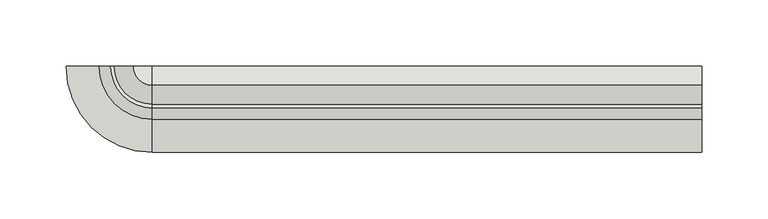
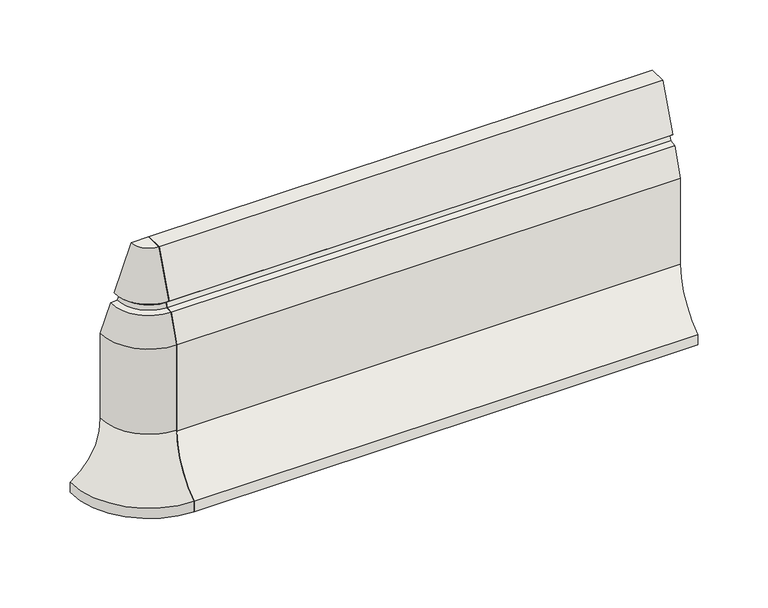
"""IFC4 building model written with IfcOpenShell, lengths in millimetres: wall geometry, GM_PC_UN_ACO kerb PB outside corner_ACO : PB H200 standard."""

import ifcopenshell
import ifcopenshell.guid

model = None  # the IFC model being written
_history = None  # IfcOwnerHistory: only IFC2X3 demands one
_inside = {}  # id of a spatial element -> (the spatial element, [elements in it])
_under = {}  # id of a project, library or spatial element -> (it, [spatial elements below it])
_declared = {}  # id of a project -> (the project, [libraries it declares])
_typed = {}  # id of a type object -> (the type object, [elements of that type])
_made_of = {}  # id of a material, layer set ... -> (it, [elements and type objects made of it])


def new_model(schema):
    """Start an empty IFC model of exactly this schema.

    Asked for "IFC4X3", IfcOpenShell would pick the latest addendum, in which some entities
    have other attributes; the version numbers below select the first issue.
    IFC2X3 requires an IfcOwnerHistory on every rooted entity: one is made here for all.
    """
    global model, _history
    if schema == "IFC4X3":
        model = ifcopenshell.file(schema_version=(4, 3, 0, 0))
    else:
        model = ifcopenshell.file(schema=schema)
    _inside.clear()
    _under.clear()
    _declared.clear()
    _typed.clear()
    _made_of.clear()
    _history = None
    if model.schema == "IFC2X3":
        org = make("IfcOrganization", Name="unknown")
        user = make(
            "IfcPersonAndOrganization",
            ThePerson=make("IfcPerson", FamilyName="unknown"),
            TheOrganization=org,
        )
        app = make(
            "IfcApplication",
            ApplicationDeveloper=org,
            Version="unknown",
            ApplicationFullName="unknown",
            ApplicationIdentifier="unknown",
        )
        _history = make(
            "IfcOwnerHistory",
            OwningUser=user,
            OwningApplication=app,
            ChangeAction="ADDED",
            CreationDate=0,
        )
    return model


def make(cls, **values):
    """One entity of the class cls with the attributes given. An attribute that is None is left unset."""
    return model.create_entity(
        cls, **{name: value for name, value in values.items() if value is not None}
    )


def rooted(cls, **values):
    """An entity with a GlobalId (a new one), such as an element, a storey or a relation."""
    return make(cls, GlobalId=ifcopenshell.guid.new(), OwnerHistory=_history, **values)


def si_unit(unit_type, name, prefix=None):
    """IfcSIUnit, for example si_unit("LENGTHUNIT", "METRE", prefix="MILLI")."""
    return make("IfcSIUnit", UnitType=unit_type, Prefix=prefix, Name=name)


def assignment(units):
    """IfcUnitAssignment: the units of a project."""
    return None if units is None else make("IfcUnitAssignment", Units=units)


def point(xyz):
    """IfcCartesianPoint."""
    return None if xyz is None else make("IfcCartesianPoint", Coordinates=xyz)


def direction(xyz):
    """IfcDirection."""
    return None if xyz is None else make("IfcDirection", DirectionRatios=xyz)


def frame(location, z_axis=None, x_axis=None):
    """IfcAxis2Placement3D, a coordinate frame: its origin and axes. An axis left out is left unset."""
    return make(
        "IfcAxis2Placement3D",
        Location=point(location),
        Axis=direction(z_axis),
        RefDirection=direction(x_axis),
    )


def frame_2d(location, x_axis=None):
    """IfcAxis2Placement2D, a coordinate frame in the plane: its origin and x axis."""
    return make(
        "IfcAxis2Placement2D", Location=point(location), RefDirection=direction(x_axis)
    )


def origin():
    """The frame at (0, 0, 0) with its axes left unset."""
    return frame((0.0, 0.0, 0.0))


def place(relative_to, where):
    """IfcLocalPlacement: puts the frame where relative to a parent placement (None: the world)."""
    return make(
        "IfcLocalPlacement", PlacementRelTo=relative_to, RelativePlacement=where
    )


def context(
    kind, dimensions, precision=None, world=None, true_north=None, identifier=None
):
    """IfcGeometricRepresentationContext, for example the 3D "Model" context."""
    return make(
        "IfcGeometricRepresentationContext",
        ContextIdentifier=identifier,
        ContextType=kind,
        CoordinateSpaceDimension=dimensions,
        Precision=precision,
        WorldCoordinateSystem=world,
        TrueNorth=true_north,
    )


def project(units=None, contexts=None):
    """IfcProject with its units and contexts."""
    return rooted(
        "IfcProject",
        Name="project",
        RepresentationContexts=contexts,
        UnitsInContext=assignment(units),
    )


def spatial(cls, under=None, at=None, **own):
    """A site, building, storey or space (cls), placed at a placement, below another one or the project."""
    s = rooted(cls, ObjectPlacement=at, **own)
    if under is not None:
        _under.setdefault(under.id(), (under, []))[1].append(s)
    return s


def polyline(points):
    """IfcPolyline through the points."""
    return make("IfcPolyline", Points=[point(p) for p in points])


def circle_curve(where, radius):
    """IfcCircle in the frame where."""
    return make("IfcCircle", Position=where, Radius=radius)


def ellipse_curve(where, semi_axis1, semi_axis2):
    """IfcEllipse in the frame where."""
    return make(
        "IfcEllipse", Position=where, SemiAxis1=semi_axis1, SemiAxis2=semi_axis2
    )


def trimmed(basis, trim1, trim2, sense, master):
    """IfcTrimmedCurve: the piece of a basis curve between two trims."""
    return make(
        "IfcTrimmedCurve",
        BasisCurve=basis,
        Trim1=trim1,
        Trim2=trim2,
        SenseAgreement=sense,
        MasterRepresentation=master,
    )


def segment(curve, same_sense, transition):
    """IfcCompositeCurveSegment."""
    return make(
        "IfcCompositeCurveSegment",
        Transition=transition,
        SameSense=same_sense,
        ParentCurve=curve,
    )


def composite_curve(segments, self_intersect=None):
    """IfcCompositeCurve: segments joined end to end."""
    return make("IfcCompositeCurve", Segments=segments, SelfIntersect=self_intersect)


def outline(outer, holes=None, kind="AREA"):
    """IfcArbitraryClosedProfileDef: a profile drawn as a closed curve; with holes, ...WithVoids."""
    if holes is None:
        return make("IfcArbitraryClosedProfileDef", ProfileType=kind, OuterCurve=outer)
    return make(
        "IfcArbitraryProfileDefWithVoids",
        ProfileType=kind,
        OuterCurve=outer,
        InnerCurves=holes,
    )


def extrude(swept, where, along, depth):
    """IfcExtrudedAreaSolid: the profile swept, set in the frame where, extruded along a direction by depth."""
    return make(
        "IfcExtrudedAreaSolid",
        SweptArea=swept,
        Position=where,
        ExtrudedDirection=direction(along),
        Depth=depth,
    )


def shape(context_of_items, identifier, shape_type, items):
    """IfcShapeRepresentation: the items that make up one representation, for example the "Body"."""
    return make(
        "IfcShapeRepresentation",
        ContextOfItems=context_of_items,
        RepresentationIdentifier=identifier,
        RepresentationType=shape_type,
        Items=items,
    )


def source(mapping_origin, context_of_items, identifier, shape_type, items):
    """IfcRepresentationMap: a shape defined once, which mapped items show again and again."""
    return make(
        "IfcRepresentationMap",
        MappingOrigin=mapping_origin,
        MappedRepresentation=shape(context_of_items, identifier, shape_type, items),
    )


def transform(
    local_origin,
    x_axis=None,
    y_axis=None,
    z_axis=None,
    scale=None,
    scale2=None,
    scale3=None,
    uniform=True,
):
    """IfcCartesianTransformationOperator3D, or its non-uniform kind. x_axis, y_axis, z_axis: its Axis1, 2, 3."""
    if uniform:
        return make(
            "IfcCartesianTransformationOperator3D",
            Axis1=direction(x_axis),
            Axis2=direction(y_axis),
            LocalOrigin=point(local_origin),
            Scale=scale,
            Axis3=direction(z_axis),
        )
    return make(
        "IfcCartesianTransformationOperator3DnonUniform",
        Axis1=direction(x_axis),
        Axis2=direction(y_axis),
        LocalOrigin=point(local_origin),
        Scale=scale,
        Axis3=direction(z_axis),
        Scale2=scale2,
        Scale3=scale3,
    )


def mapped(mapping_source, mapping_target):
    """IfcMappedItem: shows the shape of a source again, moved by a transform."""
    return make(
        "IfcMappedItem", MappingSource=mapping_source, MappingTarget=mapping_target
    )


def made_of(thing, what):
    """Note that an element or type object is made of a material, layer set ...; save() writes the relation."""
    if what is not None:
        _made_of.setdefault(what.id(), (what, []))[1].append(thing)
    return thing


def element(
    cls,
    number,
    at=None,
    inside=None,
    cuts=None,
    type_object=None,
    material=None,
    context=None,
    identifier="Body",
    shape_type=None,
    held_by="IfcProductDefinitionShape",
    body=None,
    shapes=None,
    **own,
):
    """One element of the class cls, such as IfcWall. Its Tag is "e" and its number.

    at: its placement. inside: the storey or other place that contains it. cuts: it is an
    opening in that element (IfcRelVoidsElement). A single representation is given by context,
    identifier, shape_type and body (its items); several are given by shapes. held_by: the class
    of the entity that holds the representations. save() writes the other relations.
    """
    e = rooted(cls, Tag="e%d" % number, ObjectPlacement=at, **own)
    if body is not None:
        shapes = [shape(context, identifier, shape_type, body)]
    if shapes is not None:
        e.Representation = make(held_by, Representations=shapes)
    if inside is not None:
        _inside.setdefault(inside.id(), (inside, []))[1].append(e)
    if cuts is not None:
        rooted(
            "IfcRelVoidsElement", RelatingBuildingElement=cuts, RelatedOpeningElement=e
        )
    if type_object is not None:
        _typed.setdefault(type_object.id(), (type_object, []))[1].append(e)
    return made_of(e, material)


def aggregate(whole, parts):
    """IfcRelAggregates: a whole, such as a stair, and the parts it consists of."""
    return rooted("IfcRelAggregates", RelatingObject=whole, RelatedObjects=parts)


def save(model, path):
    """Write the relations noted so far, then the file.

    IfcRelAggregates (storeys below a building ...), IfcRelContainedInSpatialStructure (elements
    in a storey), IfcRelDefinesByType, IfcRelAssociatesMaterial and IfcRelDeclares: one each for
    every whole, place, type object, material and project.
    """
    for whole, parts in _under.values():
        aggregate(whole, parts)
    for where, things in _inside.values():
        rooted(
            "IfcRelContainedInSpatialStructure",
            RelatedElements=things,
            RelatingStructure=where,
        )
    for kind, things in _typed.values():
        rooted("IfcRelDefinesByType", RelatedObjects=things, RelatingType=kind)
    for what, things in _made_of.values():
        rooted("IfcRelAssociatesMaterial", RelatedObjects=things, RelatingMaterial=what)
    for by, libraries in _declared.values():
        rooted("IfcRelDeclares", RelatingContext=by, RelatedDefinitions=libraries)
    model.write(path)


def plane_surface(at):
    """IfcPlane: the flat surface through the origin of the frame at, square to its z axis."""
    return make("IfcPlane", Position=at)


def cylinder_surface(at, radius):
    """IfcCylindricalSurface: all points at the distance radius from the z axis of the frame at."""
    return make("IfcCylindricalSurface", Position=at, Radius=radius)


def revolved_surface(curve, axis_point, axis_direction):
    """IfcSurfaceOfRevolution: the curve turned about the line through axis_point along axis_direction."""
    return make(
        "IfcSurfaceOfRevolution",
        SweptCurve=make("IfcArbitraryOpenProfileDef", ProfileType="CURVE", Curve=curve),
        AxisPosition=make("IfcAxis1Placement", Location=point(axis_point), Axis=direction(axis_direction)),
    )


def advanced_brep(points, edges, surfaces, faces):
    """IfcAdvancedBrep: a solid bounded by faces that lie on surfaces and meet in shared edges.

    An edge is (start, end): straight between two places in points (the first is 0);
    or (start, end, curve); or (start, end, curve, False) where it runs against its curve.
    A face is (place in surfaces, loops), or (place, loops, False) where it looks against
    its surface's normal. A loop lists edges by number (the first is 1), with a minus sign
    where the edge is run from its end to its start. The first loop is the outer one.
    """
    corners = [point(p) for p in points]
    vertices = [make("IfcVertexPoint", VertexGeometry=c) for c in corners]
    made = []
    for start, end, *more in edges:
        made.append(
            make(
                "IfcEdgeCurve",
                EdgeStart=vertices[start],
                EdgeEnd=vertices[end],
                EdgeGeometry=more[0] if more else make("IfcPolyline", Points=[corners[start], corners[end]]),
                SameSense=more[1] if len(more) > 1 else True,
            )
        )
    hull = []
    for where, loops, *sense in faces:
        bounds = []
        for j, loop in enumerate(loops):
            ring = [make("IfcOrientedEdge", EdgeElement=made[abs(k) - 1], Orientation=k > 0) for k in loop]
            bounds.append(
                make(
                    "IfcFaceOuterBound" if j == 0 else "IfcFaceBound",
                    Bound=make("IfcEdgeLoop", EdgeList=ring),
                    Orientation=True,
                )
            )
        hull.append(make("IfcAdvancedFace", Bounds=bounds, FaceSurface=surfaces[where], SameSense=sense[0] if sense else True))
    return make("IfcAdvancedBrep", Outer=make("IfcClosedShell", CfsFaces=hull))


def wall_ec21484a(model_context):
    return source(origin(), model_context, "Body", "SolidModel", [
        extrude(outline(composite_curve([segment(polyline([(-40.0039527, 130.0277035), (-31.5963262, 153.428955), (-26.03433, 154.0469313), (-24.6373807, 157.7298564), (-28.690316, 161.1592348), (-14.5292951, 200.0197419), (0.0, 200.0197419), (0.0, 0.0), (-65.0223078, 0.0), (-65.0223078, 8.9062534)]), True, "CONTINUOUS"), segment(trimmed(circle_curve(frame_2d((-94.2239515, 54.592465)), 54.2214526), [point((-65.0223078, 8.9062534))], [point((-40.0039527, 54.9895287))], True, "CARTESIAN"), True, "CONTINUOUS"), segment(polyline([(-40.0039527, 54.9895287), (-40.0039527, 130.0277035)]), True, "CONTINUOUS")], self_intersect=False)), frame((0.0, 0.0, 0.0), z_axis=(1.0, 0.0, 0.0), x_axis=(0.0, 1.0, 0.0)), (0.0, 0.0, 1.0), 415.0),
        advanced_brep(
        [(-40.0039527, 0.0, 130.0079616), (-31.5963262, 0.0, 153.4092131), (-26.03433, 0.0, 154.0271894), (-24.6373807, 0.0, 157.7101145), (-28.690316, 0.0, 161.1394929), (-14.5292951, 0.0, 200.0), (0.0, 0.0, 200.0), (0.0, 0.0, 0.0), (-65.0, 0.0, 0.0), (-65.0, 0.0, 8.9062534), (-40.0039527, 0.0, 55.8011862), (0.0, -40.0039527, 130.0079616), (0.0, -40.0039527, 55.8011862), (0.0, -65.0, 8.9062534), (0.0, -65.0, 0.0), (0.0, -14.5292951, 200.0), (0.0, -28.690316, 161.1394929), (0.0, -24.6373807, 157.7101145), (0.0, -26.03433, 154.0271894), (0.0, -31.5963262, 153.4092131)],
        [
            (0, 1),
            (1, 2),
            (2, 3),
            (3, 4),
            (4, 5),
            (5, 6),
            (6, 7),
            (7, 8),
            (8, 9),
            (9, 10, circle_curve(frame((-94.2239515, 0.0, 54.592465), z_axis=(0.0, -1.0, 0.0), x_axis=(-1.0, 0.0, 0.0)), 54.2334701)),
            (10, 0),
            (11, 12),
            (12, 13, circle_curve(frame((0.0, -94.2239515, 54.592465), z_axis=(-1.0, 0.0, 0.0), x_axis=(0.0, -1.0, 0.0)), 54.2334701)),
            (13, 14),
            (14, 7),
            (6, 15),
            (15, 16),
            (16, 17),
            (17, 18),
            (18, 19),
            (19, 11),
            (19, 1, circle_curve(frame((0.0, 0.0, 153.4092131), z_axis=(0.0, 0.0, -1.0), x_axis=(-1.0, 0.0, 0.0)), 31.5963262)),
            (0, 11, circle_curve(frame((0.0, 0.0, 130.0079616), z_axis=(0.0, 0.0, 1.0), x_axis=(-1.0, 0.0, 0.0)), 40.0039527)),
            (18, 2, circle_curve(frame((0.0, 0.0, 154.0271894), z_axis=(0.0, 0.0, -1.0), x_axis=(-1.0, 0.0, 0.0)), 26.03433)),
            (17, 3, circle_curve(frame((0.0, 0.0, 157.7101145), z_axis=(0.0, 0.0, -1.0), x_axis=(-1.0, 0.0, 0.0)), 24.6373807)),
            (16, 4, circle_curve(frame((0.0, 0.0, 161.1394929), z_axis=(0.0, 0.0, -1.0), x_axis=(-1.0, 0.0, 0.0)), 28.690316)),
            (15, 5, circle_curve(frame((0.0, 0.0, 200.0), z_axis=(0.0, 0.0, -1.0), x_axis=(-1.0, 0.0, 0.0)), 14.5292951)),
            (14, 8, circle_curve(frame((0.0, 0.0, 0.0), z_axis=(0.0, 0.0, -1.0), x_axis=(-1.0, 0.0, 0.0)), 65.0)),
            (13, 9, circle_curve(frame((0.0, 0.0, 8.9062534), z_axis=(0.0, 0.0, -1.0), x_axis=(-1.0, 0.0, 0.0)), 65.0)),
            (12, 10, circle_curve(frame((0.0, 0.0, 55.8011862), z_axis=(0.0, 0.0, -1.0), x_axis=(-1.0, 0.0, 0.0)), 40.0039527)),
        ],
        [
            plane_surface(frame((0.0, 0.0, 434.9802581), z_axis=(0.0, 1.0, 0.0), x_axis=(-1.0, 0.0, 0.0))),
            plane_surface(frame((0.0, 0.0, 434.9802581), z_axis=(1.0, 0.0, 0.0), x_axis=(0.0, -1.0, 0.0))),
            revolved_surface(polyline([(-40.0039527, 0.0, 130.0079616), (-31.5963262, 0.0, 153.4092131)]), (0.0, 0.0, 434.9802581), (0.0, 0.0, 1.0)),
            revolved_surface(polyline([(-31.5963262, 0.0, 153.4092131), (-26.03433, 0.0, 154.0271894)]), (0.0, 0.0, 434.9802581), (0.0, 0.0, 1.0)),
            revolved_surface(polyline([(-26.03433, 0.0, 154.0271894), (-24.6373807, 0.0, 157.7101145)]), (0.0, 0.0, 434.9802581), (0.0, 0.0, 1.0)),
            revolved_surface(polyline([(-24.6373807, 0.0, 157.7101145), (-28.690316, 0.0, 161.1394929)]), (0.0, 0.0, 434.9802581), (0.0, 0.0, 1.0)),
            revolved_surface(polyline([(-28.690316, 0.0, 161.1394929), (-14.5292951, 0.0, 200.0)]), (0.0, 0.0, 434.9802581), (0.0, 0.0, 1.0)),
            plane_surface(frame((0.0, 0.0, 200.0), z_axis=(0.0, 0.0, 1.0), x_axis=(-1.0, 0.0, 0.0))),
            plane_surface(frame((0.0, 0.0, 0.0), z_axis=(0.0, 0.0, -1.0), x_axis=(-1.0, 0.0, 0.0))),
            cylinder_surface(frame((0.0, 0.0, 434.9802581), z_axis=(0.0, 0.0, 1.0), x_axis=(-1.0, 0.0, 0.0)), 65.0),
            revolved_surface(trimmed(ellipse_curve(frame((-94.2239515, 0.0, 54.592465), z_axis=(0.0, -1.0, 0.0), x_axis=(-1.0, 0.0, 0.0)), 54.2334701, 54.2334701), [point((-65.0, 0.0, 8.9062534))], [point((-40.0039527, 0.0, 55.8011862))], True, "CARTESIAN"), (0.0, 0.0, 434.9802581), (0.0, 0.0, 1.0)),
            cylinder_surface(frame((0.0, 0.0, 434.9802581), z_axis=(0.0, 0.0, 1.0), x_axis=(-1.0, 0.0, 0.0)), 40.0039527),
        ],
        [
            (0, [[1, 2, 3, 4, 5, 6, 7, 8, 9, 10, 11]]),
            (1, [[12, 13, 14, 15, -7, 16, 17, 18, 19, 20, 21]]),
            (2, [[22, -1, 23, -21]]),
            (3, [[24, -2, -22, -20]]),
            (4, [[25, -3, -24, -19]]),
            (5, [[26, -4, -25, -18]]),
            (6, [[27, -5, -26, -17]]),
            (7, [[-6, -27, -16]]),
            (8, [[28, -8, -15]]),
            (9, [[29, -9, -28, -14]]),
            (10, [[30, -10, -29, -13]]),
            (11, [[-23, -11, -30, -12]]),
        ],
    ),
    ])


if __name__ == "__main__":
    model = new_model("IFC4")
    model_context = context("Model", 3, world=origin())
    ifc_project = project(units=[si_unit("LENGTHUNIT", "METRE", prefix="MILLI")], contexts=[model_context])
    site = spatial("IfcSite", under=ifc_project)
    building = spatial("IfcBuilding", under=site)
    placement = place(None, origin())
    wall_shape = wall_ec21484a(model_context)
    element("IfcWall", 1, ObjectType="GM_PC_UN_ACO kerb PB outside corner_ACO : PB H200 standard", at=placement, inside=building, context=model_context, shape_type="MappedRepresentation", body=[
        mapped(wall_shape, transform((0.0, 0.0, 0.0), x_axis=(1.0, 0.0, 0.0), y_axis=(0.0, 1.0, 0.0), z_axis=(0.0, 0.0, 1.0))),
    ])
    save(model, "model.ifc")
